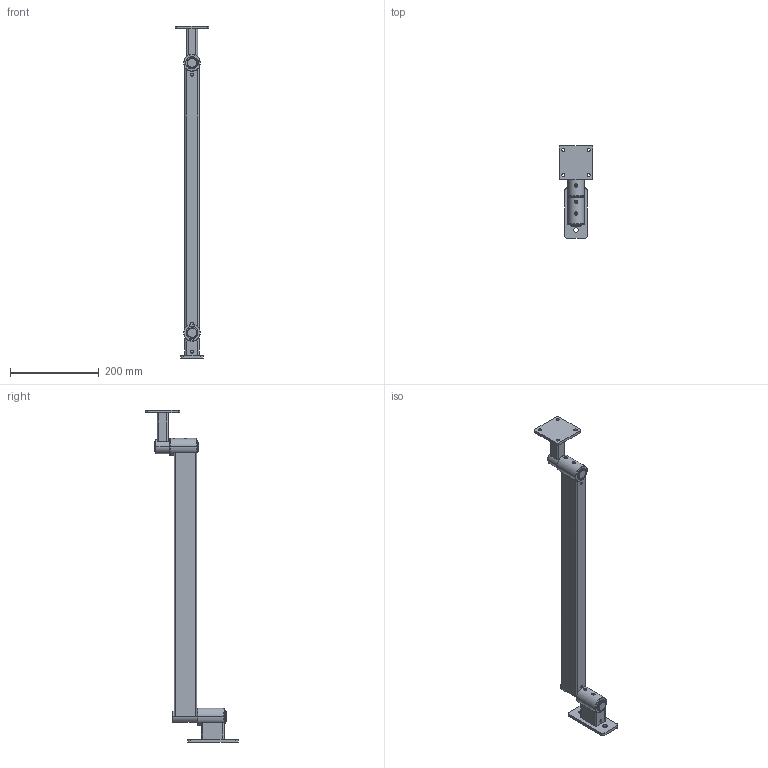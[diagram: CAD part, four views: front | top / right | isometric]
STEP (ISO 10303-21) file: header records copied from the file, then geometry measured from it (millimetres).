
FILE_DESCRIPTION (( 'STEP AP203' ), '1' );
FILE_NAME ('70-0602-00 REV AA, 24in RIGID ARM CONTROLLER, POWER SUPPLY MOUNT - EXTENDED.STEP', '2025-07-17T00:42:06', ( '' ), ( '' ), 'SwSTEP 2.0', 'SolidWorks 2025', '' );
FILE_SCHEMA (( 'CONFIG_CONTROL_DESIGN' ));
Length unit declared in the file: millimetre
Products named in the file (18): 71-0055-RX REV AA, HOUSING, 3X3 PLATE_MACHINE; 71-0013-RX REV AA, HOUSING, BEARING, SHORT_MACHINE; 016-007-00, OILITE PLUS BEARING, 0.876 id x 1.002 od x 0.75 lg; 70-0048-RX REV AA, CONNECTOR PIN, 875OD x 3.9; 71-0090-RX REV AA, HOUSING, MOUNT; 70-1024-00 REV AA, 24in RIGID SECTION; 010-012-00, RETAINING RING, EXTERNAL, .875in SHAFT; 016-008-00, OILITE PLUS BEARING, 0.876 id x 1.002 od x 1.25 lg; 70-0602-00 REV AA, 24in RIGID ARM CONTROLLER, POWER SUPPLY MOUNT - EXTENDED; 71-0218-RX REV AA, PLATE, MICRO HD, 4.5 x 2.0 x .25_Laser; 71-1024-RX REV AA, HOUSING, 24in RIGID; 70-0018-00 REV AA, MICRO HD WALL MOUNT; 70-0048-00 REV AA, CONNECTOR PIN ASSEMBLY, .875OD x 3.9; 70-0055-00 REV AA, 3x3 PLATE ATTACHMENT; 71-2113-RX REV AA, HOUSING, BEARING, TALL, 1.5OD_MACHINE; 71-0022-RX REV AA, PIN, RIGID SECTION; 007-036-00, SHSS, 1''4-28, .25L_007-036-00; 11-0055-RX REV AA, PLATE, 3X3 ATTACHMENT_Laser
Assembly tree (25 placements, depth 3):
  70-0602-00 REV AA, 24in RIGID ARM CONTROLLER, POWER SUPPLY MOUNT - EXTENDED
    70-0018-00 REV AA, MICRO HD WALL MOUNT
      71-0218-RX REV AA, PLATE, MICRO HD, 4.5 x 2.0 x .25_Laser
      71-0090-RX REV AA, HOUSING, MOUNT
      71-2113-RX REV AA, HOUSING, BEARING, TALL, 1.5OD_MACHINE
      016-007-00, OILITE PLUS BEARING, 0.876 id x 1.002 od x 0.75 lg
      016-008-00, OILITE PLUS BEARING, 0.876 id x 1.002 od x 1.25 lg
      007-036-00, SHSS, 1''4-28, .25L_007-036-00
    70-1024-00 REV AA, 24in RIGID SECTION
      71-1024-RX REV AA, HOUSING, 24in RIGID
      71-0022-RX REV AA, PIN, RIGID SECTION
      71-2113-RX REV AA, HOUSING, BEARING, TALL, 1.5OD_MACHINE
      016-007-00, OILITE PLUS BEARING, 0.876 id x 1.002 od x 0.75 lg
      016-008-00, OILITE PLUS BEARING, 0.876 id x 1.002 od x 1.25 lg
      007-036-00, SHSS, 1''4-28, .25L_007-036-00
      010-012-00, RETAINING RING, EXTERNAL, .875in SHAFT
    70-0048-00 REV AA, CONNECTOR PIN ASSEMBLY, .875OD x 3.9
      70-0048-RX REV AA, CONNECTOR PIN, 875OD x 3.9
      010-012-00, RETAINING RING, EXTERNAL, .875in SHAFT  x2
    70-0055-00 REV AA, 3x3 PLATE ATTACHMENT
      71-0055-RX REV AA, HOUSING, 3X3 PLATE_MACHINE
      71-0013-RX REV AA, HOUSING, BEARING, SHORT_MACHINE
      11-0055-RX REV AA, PLATE, 3X3 ATTACHMENT_Laser
      016-008-00, OILITE PLUS BEARING, 0.876 id x 1.002 od x 1.25 lg
      007-036-00, SHSS, 1''4-28, .25L_007-036-00
Bounding box: 76.2 x 208.41 x 749.93 mm (x, y, z)
Volume: 484696.3 mm3; surface area: 307676.4 mm2
Topology: 21 solids, 21 shells, 487 faces, 1165 edges, 716 vertices
Faces by surface type: cylinder 212, plane 130, cone 74, torus 62, bspline 9
Entity records: 12302 total; most frequent: CARTESIAN_POINT 3270, DIRECTION 1569, ORIENTED_EDGE 1374, EDGE_CURVE 687, AXIS2_PLACEMENT_3D 643, VERTEX_POINT 432, EDGE_LOOP 335, CIRCLE 327
